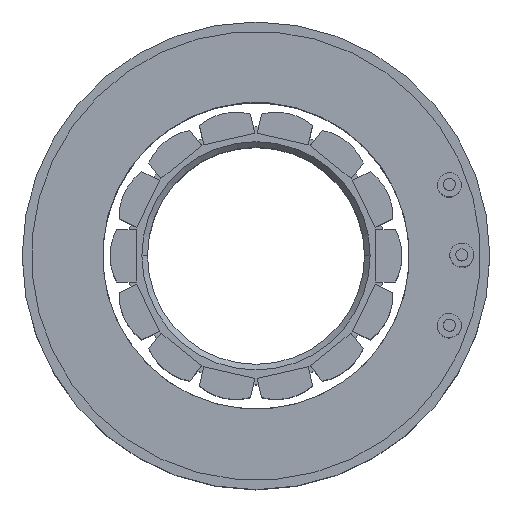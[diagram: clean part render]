
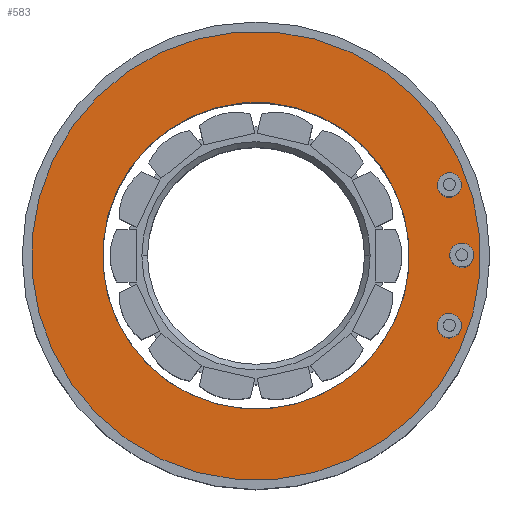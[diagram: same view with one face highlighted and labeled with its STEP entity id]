
A CAD part, top view. The second image highlights one B-rep face of the part: STEP entity #583.
In plain terms, the highlighted planar face has unit normal (0, 0, 1).
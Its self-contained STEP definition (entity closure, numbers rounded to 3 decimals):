
#3 = DIRECTION ( 'NONE',  ( 0., 0., 1. ) ) ;
#71 = EDGE_CURVE ( 'NONE', #4813, #3150, #4884, .T. ) ;
#186 = CIRCLE ( 'NONE', #5316, 8.2 ) ;
#299 = CARTESIAN_POINT ( 'NONE',  ( -7.923, -2.115, 13.2 ) ) ;
#404 = DIRECTION ( 'NONE',  ( 0., 0., 1. ) ) ;
#583 = ADVANCED_FACE ( 'NONE', ( #4999, #4016 ), #5394, .T. ) ;
#737 = AXIS2_PLACEMENT_3D ( 'NONE', #4074, #1854, #2303 ) ;
#829 = CARTESIAN_POINT ( 'NONE',  ( 0., 0., 13.2 ) ) ;
#1485 = AXIS2_PLACEMENT_3D ( 'NONE', #829, #404, #3842 ) ;
#1748 = CIRCLE ( 'NONE', #1485, 12. ) ;
#1840 = DIRECTION ( 'NONE',  ( 0.966, 0.258, 0. ) ) ;
#1854 = DIRECTION ( 'NONE',  ( 0., 0., 1. ) ) ;
#1907 = CARTESIAN_POINT ( 'NONE',  ( -11.594, -3.094, 13.2 ) ) ;
#1981 = ORIENTED_EDGE ( 'NONE', *, *, #2081, .T. ) ;
#2066 = DIRECTION ( 'NONE',  ( 0., 0., 1. ) ) ;
#2081 = EDGE_CURVE ( 'NONE', #2368, #3157, #1748, .T. ) ;
#2107 = CARTESIAN_POINT ( 'NONE',  ( 11.594, 3.094, 13.2 ) ) ;
#2172 = CARTESIAN_POINT ( 'NONE',  ( 0., 0., 13.2 ) ) ;
#2303 = DIRECTION ( 'NONE',  ( 0.966, 0.258, 0. ) ) ;
#2363 = ORIENTED_EDGE ( 'NONE', *, *, #3939, .F. ) ;
#2368 = VERTEX_POINT ( 'NONE', #1907 ) ;
#2679 = AXIS2_PLACEMENT_3D ( 'NONE', #2172, #3, #3801 ) ;
#2942 = CARTESIAN_POINT ( 'NONE',  ( 0., 0., 13.2 ) ) ;
#3150 = VERTEX_POINT ( 'NONE', #299 ) ;
#3157 = VERTEX_POINT ( 'NONE', #2107 ) ;
#3351 = CARTESIAN_POINT ( 'NONE',  ( 0., 0., 13.2 ) ) ;
#3384 = CARTESIAN_POINT ( 'NONE',  ( 7.923, 2.115, 13.2 ) ) ;
#3468 = EDGE_LOOP ( 'NONE', ( #1981, #4238 ) ) ;
#3779 = EDGE_LOOP ( 'NONE', ( #2363, #3817 ) ) ;
#3801 = DIRECTION ( 'NONE',  ( 0.966, 0.258, 0. ) ) ;
#3817 = ORIENTED_EDGE ( 'NONE', *, *, #71, .F. ) ;
#3842 = DIRECTION ( 'NONE',  ( 0.966, 0.258, 0. ) ) ;
#3939 = EDGE_CURVE ( 'NONE', #3150, #4813, #186, .T. ) ;
#4016 = FACE_BOUND ( 'NONE', #3779, .T. ) ;
#4074 = CARTESIAN_POINT ( 'NONE',  ( 0., 0., 13.2 ) ) ;
#4238 = ORIENTED_EDGE ( 'NONE', *, *, #5144, .T. ) ;
#4252 = DIRECTION ( 'NONE',  ( 0., 0., 1. ) ) ;
#4700 = DIRECTION ( 'NONE',  ( 0.966, 0.258, 0. ) ) ;
#4813 = VERTEX_POINT ( 'NONE', #3384 ) ;
#4884 = CIRCLE ( 'NONE', #5334, 8.2 ) ;
#4999 = FACE_OUTER_BOUND ( 'NONE', #3468, .T. ) ;
#5144 = EDGE_CURVE ( 'NONE', #3157, #2368, #5215, .T. ) ;
#5215 = CIRCLE ( 'NONE', #2679, 12. ) ;
#5316 = AXIS2_PLACEMENT_3D ( 'NONE', #3351, #2066, #4700 ) ;
#5334 = AXIS2_PLACEMENT_3D ( 'NONE', #2942, #4252, #1840 ) ;
#5394 = PLANE ( 'NONE',  #737 ) ;
